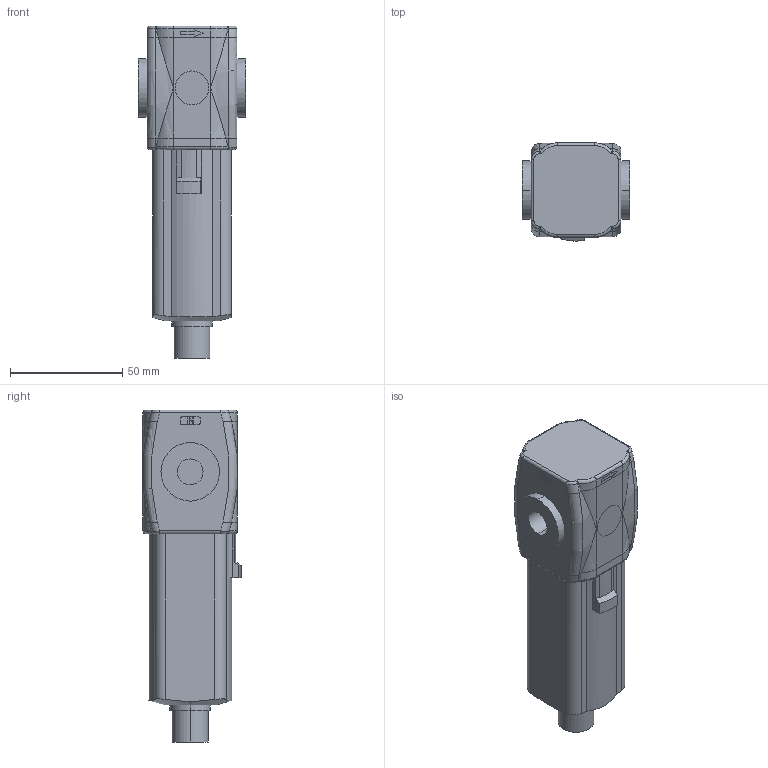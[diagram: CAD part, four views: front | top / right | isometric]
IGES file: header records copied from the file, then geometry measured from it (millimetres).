
Global section: file name: No Iges File Name specified; native system: Autodesk Inventor 2010; preprocessor: AutoDesk Inventor Iges Exporter R2010; author: valotma1; date: 20100823.141733; units: millimetre
Bounding box: 48 x 43.6 x 147.6 mm (x, y, z)
Volume: 182471.3 mm3; surface area: 23976.8 mm2
Topology: 1 solids, 1 shells, 218 faces, 534 edges, 338 vertices
Faces by surface type: plane 81, bspline 59, cylinder 47, torus 20, revolution 9, cone 2
